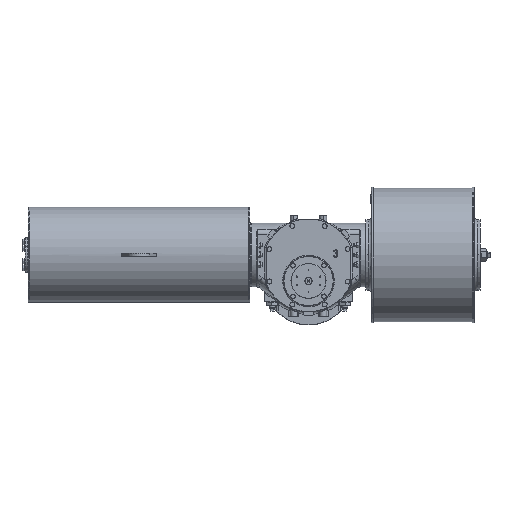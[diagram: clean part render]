
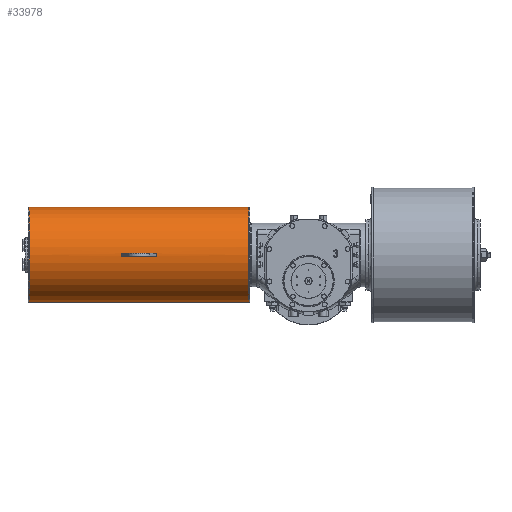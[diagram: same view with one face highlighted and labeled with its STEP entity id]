
A CAD part, top view. The second image highlights one B-rep face of the part: STEP entity #33978.
In plain terms, the highlighted cylindrical face has radius 162.5 mm (diameter 325 mm), a partial arc.
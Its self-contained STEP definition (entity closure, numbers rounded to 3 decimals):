
#218 = CARTESIAN_POINT ( 'NONE',  ( -208., 198., 74.5 ) ) ;
#343 = AXIS2_PLACEMENT_3D ( 'NONE', #70541, #42088, #53766 ) ;
#857 = AXIS2_PLACEMENT_3D ( 'NONE', #3095, #26868, #3471 ) ;
#3095 = CARTESIAN_POINT ( 'NONE',  ( -954., 35.5, 74.5 ) ) ;
#3471 = DIRECTION ( 'NONE',  ( 0., -1., 0. ) ) ;
#4195 = LINE ( 'NONE', #33416, #59144 ) ;
#5356 = ORIENTED_EDGE ( 'NONE', *, *, #65415, .T. ) ;
#6228 = FACE_BOUND ( 'NONE', #67643, .T. ) ;
#7542 = LINE ( 'NONE', #73354, #13274 ) ;
#7956 = CARTESIAN_POINT ( 'NONE',  ( -639.5, 35.5, 74.5 ) ) ;
#8549 = ORIENTED_EDGE ( 'NONE', *, *, #28447, .T. ) ;
#8887 = VERTEX_POINT ( 'NONE', #49180 ) ;
#9888 = EDGE_CURVE ( 'NONE', #42605, #24228, #15057, .T. ) ;
#11330 = FACE_OUTER_BOUND ( 'NONE', #24568, .T. ) ;
#13274 = VECTOR ( 'NONE', #56628, 1000. ) ;
#14014 = AXIS2_PLACEMENT_3D ( 'NONE', #7956, #31724, #54323 ) ;
#14696 = CARTESIAN_POINT ( 'NONE',  ( -519.5, 35.5, 74.5 ) ) ;
#15057 = LINE ( 'NONE', #55981, #67528 ) ;
#15285 = CIRCLE ( 'NONE', #14014, 162.5 ) ;
#16396 = CARTESIAN_POINT ( 'NONE',  ( -639.5, 35.5, 237. ) ) ;
#16917 = EDGE_CURVE ( 'NONE', #35561, #51482, #15285, .T. ) ;
#17561 = CYLINDRICAL_SURFACE ( 'NONE', #343, 162.5 ) ;
#17678 = CARTESIAN_POINT ( 'NONE',  ( -954., 198., 74.5 ) ) ;
#18008 = EDGE_CURVE ( 'NONE', #51482, #22237, #33866, .T. ) ;
#21229 = ORIENTED_EDGE ( 'NONE', *, *, #70534, .T. ) ;
#22143 = CIRCLE ( 'NONE', #25853, 162.5 ) ;
#22199 = CARTESIAN_POINT ( 'NONE',  ( -205., -127., 74.5 ) ) ;
#22237 = VERTEX_POINT ( 'NONE', #39446 ) ;
#24067 = CARTESIAN_POINT ( 'NONE',  ( -519.5, 40.5, 236.923 ) ) ;
#24228 = VERTEX_POINT ( 'NONE', #47234 ) ;
#24568 = EDGE_LOOP ( 'NONE', ( #5356, #51666, #8549, #41011 ) ) ;
#24811 = DIRECTION ( 'NONE',  ( 1., 0., 0. ) ) ;
#25853 = AXIS2_PLACEMENT_3D ( 'NONE', #14696, #56380, #62199 ) ;
#26868 = DIRECTION ( 'NONE',  ( 1., 0., 0. ) ) ;
#27678 = EDGE_CURVE ( 'NONE', #67698, #35561, #7542, .T. ) ;
#28447 = EDGE_CURVE ( 'NONE', #56121, #24228, #51976, .T. ) ;
#28832 = EDGE_CURVE ( 'NONE', #37114, #67698, #22143, .T. ) ;
#31724 = DIRECTION ( 'NONE',  ( -1., 0., 0. ) ) ;
#32065 = CARTESIAN_POINT ( 'NONE',  ( -519.5, 35.5, 237. ) ) ;
#33416 = CARTESIAN_POINT ( 'NONE',  ( -208., 40.5, 236.923 ) ) ;
#33866 = CIRCLE ( 'NONE', #73658, 162.5 ) ;
#33919 = DIRECTION ( 'NONE',  ( -1., 0., 0. ) ) ;
#33978 = ADVANCED_FACE ( 'NONE', ( #6228, #11330 ), #17561, .T. ) ;
#35412 = ORIENTED_EDGE ( 'NONE', *, *, #18008, .T. ) ;
#35507 = VECTOR ( 'NONE', #76613, 1000. ) ;
#35561 = VERTEX_POINT ( 'NONE', #51063 ) ;
#36775 = EDGE_CURVE ( 'NONE', #70465, #22237, #4195, .T. ) ;
#37114 = VERTEX_POINT ( 'NONE', #32065 ) ;
#38823 = DIRECTION ( 'NONE',  ( -1., 0., 0. ) ) ;
#39050 = AXIS2_PLACEMENT_3D ( 'NONE', #51464, #33919, #58830 ) ;
#39446 = CARTESIAN_POINT ( 'NONE',  ( -639.5, 40.5, 236.923 ) ) ;
#41011 = ORIENTED_EDGE ( 'NONE', *, *, #9888, .F. ) ;
#42088 = DIRECTION ( 'NONE',  ( -1., 0., 0. ) ) ;
#42605 = VERTEX_POINT ( 'NONE', #22199 ) ;
#43037 = ORIENTED_EDGE ( 'NONE', *, *, #16917, .T. ) ;
#43825 = DIRECTION ( 'NONE',  ( 0., 1., 0. ) ) ;
#44128 = CARTESIAN_POINT ( 'NONE',  ( -519.5, 30.5, 236.923 ) ) ;
#45897 = DIRECTION ( 'NONE',  ( -1., 0., 0. ) ) ;
#47234 = CARTESIAN_POINT ( 'NONE',  ( -954., -127., 74.5 ) ) ;
#47482 = ORIENTED_EDGE ( 'NONE', *, *, #27678, .T. ) ;
#49180 = CARTESIAN_POINT ( 'NONE',  ( -205., 198., 74.5 ) ) ;
#51063 = CARTESIAN_POINT ( 'NONE',  ( -639.5, 30.5, 236.923 ) ) ;
#51208 = DIRECTION ( 'NONE',  ( 0., -1., 0. ) ) ;
#51464 = CARTESIAN_POINT ( 'NONE',  ( -205., 35.5, 74.5 ) ) ;
#51482 = VERTEX_POINT ( 'NONE', #16396 ) ;
#51666 = ORIENTED_EDGE ( 'NONE', *, *, #76857, .T. ) ;
#51976 = CIRCLE ( 'NONE', #857, 162.5 ) ;
#52874 = LINE ( 'NONE', #218, #35507 ) ;
#53766 = DIRECTION ( 'NONE',  ( 0., -1., 0. ) ) ;
#54323 = DIRECTION ( 'NONE',  ( 0., 1., 0. ) ) ;
#54440 = CARTESIAN_POINT ( 'NONE',  ( -519.5, 35.5, 74.5 ) ) ;
#55827 = ORIENTED_EDGE ( 'NONE', *, *, #36775, .F. ) ;
#55981 = CARTESIAN_POINT ( 'NONE',  ( -208., -127., 74.5 ) ) ;
#56121 = VERTEX_POINT ( 'NONE', #17678 ) ;
#56380 = DIRECTION ( 'NONE',  ( 1., 0., 0. ) ) ;
#56462 = CIRCLE ( 'NONE', #39050, 162.5 ) ;
#56628 = DIRECTION ( 'NONE',  ( -1., 0., 0. ) ) ;
#58830 = DIRECTION ( 'NONE',  ( 0., -1., 0. ) ) ;
#59144 = VECTOR ( 'NONE', #45897, 1000. ) ;
#60173 = DIRECTION ( 'NONE',  ( -1., 0., 0. ) ) ;
#62199 = DIRECTION ( 'NONE',  ( 0., -1., 0. ) ) ;
#64793 = CIRCLE ( 'NONE', #67239, 162.5 ) ;
#65415 = EDGE_CURVE ( 'NONE', #42605, #8887, #56462, .T. ) ;
#65991 = CARTESIAN_POINT ( 'NONE',  ( -639.5, 35.5, 74.5 ) ) ;
#67239 = AXIS2_PLACEMENT_3D ( 'NONE', #54440, #24811, #51208 ) ;
#67528 = VECTOR ( 'NONE', #38823, 1000. ) ;
#67643 = EDGE_LOOP ( 'NONE', ( #55827, #21229, #74889, #47482, #43037, #35412 ) ) ;
#67698 = VERTEX_POINT ( 'NONE', #44128 ) ;
#70465 = VERTEX_POINT ( 'NONE', #24067 ) ;
#70534 = EDGE_CURVE ( 'NONE', #70465, #37114, #64793, .T. ) ;
#70541 = CARTESIAN_POINT ( 'NONE',  ( -208., 35.5, 74.5 ) ) ;
#73354 = CARTESIAN_POINT ( 'NONE',  ( -208., 30.5, 236.923 ) ) ;
#73658 = AXIS2_PLACEMENT_3D ( 'NONE', #65991, #60173, #43825 ) ;
#74889 = ORIENTED_EDGE ( 'NONE', *, *, #28832, .T. ) ;
#76613 = DIRECTION ( 'NONE',  ( -1., 0., 0. ) ) ;
#76857 = EDGE_CURVE ( 'NONE', #8887, #56121, #52874, .T. ) ;
